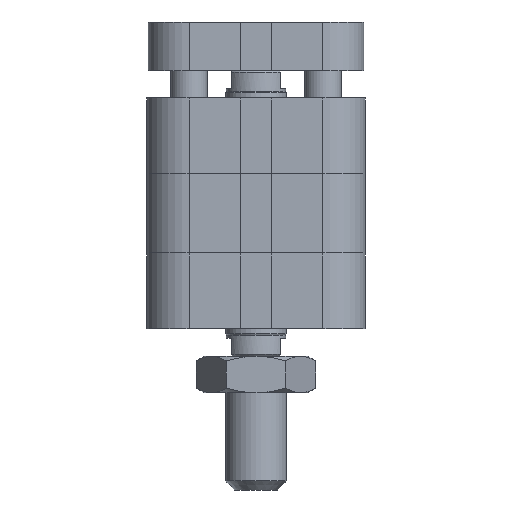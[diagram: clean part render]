
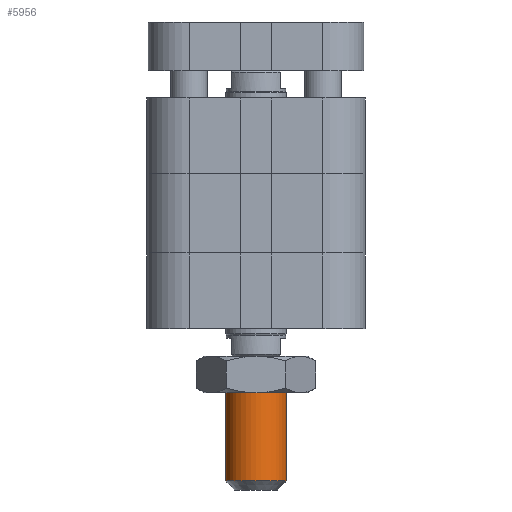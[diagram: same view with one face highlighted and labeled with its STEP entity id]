
A CAD part, front view. The second image highlights one B-rep face of the part: STEP entity #5956.
In plain terms, the highlighted cylindrical face has radius 5 mm (diameter 10 mm), a full revolution.
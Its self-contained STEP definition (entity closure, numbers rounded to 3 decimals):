
#5914=CARTESIAN_POINT('',(0.,67.5,5.));
#5915=VERTEX_POINT('',#5914);
#5916=CARTESIAN_POINT('',(0.0,67.5,0.0));
#5917=DIRECTION('',(0.0,1.0,0.0));
#5918=DIRECTION('',(0.0,0.0,-1.0));
#5919=AXIS2_PLACEMENT_3D('',#5916,#5917,#5918);
#5920=CIRCLE('',#5919,5.);
#5921=EDGE_CURVE('',#5915,#5915,#5920,.T.);
#5937=CARTESIAN_POINT('',(0.0,59.073,0.0));
#5938=DIRECTION('',(0.0,1.0,0.0));
#5939=DIRECTION('',(0.0,0.0,1.0));
#5940=AXIS2_PLACEMENT_3D('',#5937,#5938,#5939);
#5941=CYLINDRICAL_SURFACE('',#5940,5.);
#5942=CARTESIAN_POINT('',(0.0,49.146,5.));
#5943=VERTEX_POINT('',#5942);
#5944=CARTESIAN_POINT('',(0.0,49.146,0.0));
#5945=DIRECTION('',(0.0,1.0,0.0));
#5946=DIRECTION('',(0.0,0.0,1.0));
#5947=AXIS2_PLACEMENT_3D('',#5944,#5945,#5946);
#5948=CIRCLE('',#5947,5.);
#5949=EDGE_CURVE('',#5943,#5943,#5948,.T.);
#5950=ORIENTED_EDGE('',*,*,#5949,.T.);
#5951=EDGE_LOOP('',(#5950));
#5952=FACE_OUTER_BOUND('',#5951,.T.);
#5953=ORIENTED_EDGE('',*,*,#5921,.F.);
#5954=EDGE_LOOP('',(#5953));
#5955=FACE_BOUND('',#5954,.T.);
#5956=ADVANCED_FACE('',(#5952,#5955),#5941,.T.);
